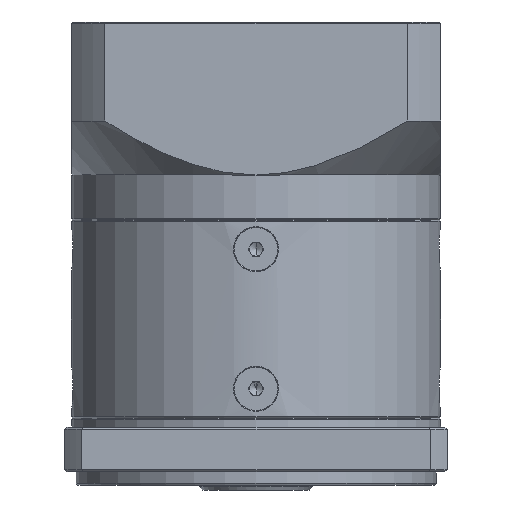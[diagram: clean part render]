
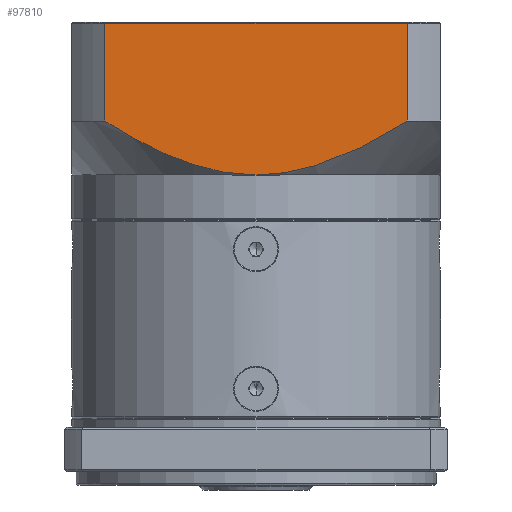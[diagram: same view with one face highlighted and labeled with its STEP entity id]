
A CAD part, front view. The second image highlights one B-rep face of the part: STEP entity #97810.
In plain terms, the highlighted planar face has unit normal (0, -1, 0).
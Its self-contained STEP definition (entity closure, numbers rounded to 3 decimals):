
#327 = CARTESIAN_POINT ( 'NONE',  ( -47.711, -1.731, -32.755 ) ) ;
#3572 = LINE ( 'NONE', #74323, #25052 ) ;
#4248 = EDGE_CURVE ( 'NONE', #39592, #39420, #40851, .T. ) ;
#5175 = LINE ( 'NONE', #55480, #98291 ) ;
#5193 = DIRECTION ( 'NONE',  ( 0., 0., -1. ) ) ;
#6837 = CARTESIAN_POINT ( 'NONE',  ( -38.102, -1.731, -30.852 ) ) ;
#7260 = CARTESIAN_POINT ( 'NONE',  ( -34.51, -1.731, -29.672 ) ) ;
#8018 = VERTEX_POINT ( 'NONE', #34319 ) ;
#8114 = CARTESIAN_POINT ( 'NONE',  ( -44.718, -1.731, -32.413 ) ) ;
#11227 = CARTESIAN_POINT ( 'NONE',  ( -62.642, -1.731, -31.088 ) ) ;
#15042 = VECTOR ( 'NONE', #88600, 1000. ) ;
#17066 = CARTESIAN_POINT ( 'NONE',  ( -35.93, -1.731, -30.178 ) ) ;
#17960 = EDGE_CURVE ( 'NONE', #122032, #8018, #39026, .T. ) ;
#20625 = CARTESIAN_POINT ( 'NONE',  ( -66.958, -1.731, -29.674 ) ) ;
#21351 = EDGE_CURVE ( 'NONE', #8018, #111827, #97185, .T. ) ;
#21616 = EDGE_CURVE ( 'NONE', #39420, #122032, #3572, .T. ) ;
#25052 = VECTOR ( 'NONE', #5193, 1000. ) ;
#29039 = CARTESIAN_POINT ( 'NONE',  ( -17.17, -1.731, -20.755 ) ) ;
#30063 = CARTESIAN_POINT ( 'NONE',  ( -73.888, -1.731, -26.733 ) ) ;
#34319 = CARTESIAN_POINT ( 'NONE',  ( -50.756, -1.731, -32.755 ) ) ;
#38292 = CARTESIAN_POINT ( 'NONE',  ( -50.756, -1.731, -32.755 ) ) ;
#39026 = B_SPLINE_CURVE_WITH_KNOTS ( 'NONE', 3,
 ( #86567, #124768, #55793, #114910, #75932, #7260, #17066, #6837, #85740, #46857, #125200, #8114, #327, #38292 ),
 .UNSPECIFIED., .F., .F.,
 ( 4, 2, 2, 2, 2, 2, 4 ),
 ( 0., 0.009, 0.018, 0.022, 0.025, 0.027, 0.036 ),
 .UNSPECIFIED. ) ;
#39420 = VERTEX_POINT ( 'NONE', #58697 ) ;
#39452 = CARTESIAN_POINT ( 'NONE',  ( -84.341, -1.731, 0.995 ) ) ;
#39592 = VERTEX_POINT ( 'NONE', #39452 ) ;
#39756 = CARTESIAN_POINT ( 'NONE',  ( -81.789, -1.731, -22.372 ) ) ;
#40157 = CARTESIAN_POINT ( 'NONE',  ( -61.187, -1.731, -31.473 ) ) ;
#40851 = LINE ( 'NONE', #59550, #15042 ) ;
#45197 = ORIENTED_EDGE ( 'NONE', *, *, #69400, .F. ) ;
#46857 = CARTESIAN_POINT ( 'NONE',  ( -40.297, -1.731, -31.448 ) ) ;
#50820 = CARTESIAN_POINT ( 'NONE',  ( -56.784, -1.731, -32.413 ) ) ;
#52144 = DIRECTION ( 'NONE',  ( 0., 0., 1. ) ) ;
#55480 = CARTESIAN_POINT ( 'NONE',  ( -84.341, -1.731, -32.755 ) ) ;
#55793 = CARTESIAN_POINT ( 'NONE',  ( -22.31, -1.731, -23.904 ) ) ;
#58697 = CARTESIAN_POINT ( 'NONE',  ( -17.17, -1.731, 0.995 ) ) ;
#59550 = CARTESIAN_POINT ( 'NONE',  ( -91.756, -1.731, 0.995 ) ) ;
#60211 = CARTESIAN_POINT ( 'NONE',  ( -71.174, -1.731, -28.024 ) ) ;
#68775 = AXIS2_PLACEMENT_3D ( 'NONE', #110321, #80415, #52144 ) ;
#69400 = EDGE_CURVE ( 'NONE', #111827, #39592, #5175, .T. ) ;
#72227 = PLANE ( 'NONE',  #68775 ) ;
#74323 = CARTESIAN_POINT ( 'NONE',  ( -17.17, -1.731, 1.245 ) ) ;
#75932 = CARTESIAN_POINT ( 'NONE',  ( -30.316, -1.731, -28.014 ) ) ;
#77817 = ORIENTED_EDGE ( 'NONE', *, *, #21616, .F. ) ;
#78678 = CARTESIAN_POINT ( 'NONE',  ( -84.341, -1.731, -20.755 ) ) ;
#79935 = CARTESIAN_POINT ( 'NONE',  ( -67.665, -1.731, -29.409 ) ) ;
#80415 = DIRECTION ( 'NONE',  ( 0., 1., 0. ) ) ;
#80633 = EDGE_LOOP ( 'NONE', ( #121029, #45197, #103712, #91211, #77817 ) ) ;
#85740 = CARTESIAN_POINT ( 'NONE',  ( -38.833, -1.731, -31.062 ) ) ;
#86567 = CARTESIAN_POINT ( 'NONE',  ( -17.17, -1.731, -20.755 ) ) ;
#88025 = CARTESIAN_POINT ( 'NONE',  ( -50.756, -1.731, -32.755 ) ) ;
#88600 = DIRECTION ( 'NONE',  ( 1., 0., 0. ) ) ;
#90138 = CARTESIAN_POINT ( 'NONE',  ( -65.53, -1.731, -30.179 ) ) ;
#91211 = ORIENTED_EDGE ( 'NONE', *, *, #17960, .F. ) ;
#96098 = DIRECTION ( 'NONE',  ( 0., 0., 1. ) ) ;
#97185 = B_SPLINE_CURVE_WITH_KNOTS ( 'NONE', 3,
 ( #88025, #118894, #50820, #40157, #11227, #119321, #90138, #20625, #79935, #60211, #30063, #108567, #39756, #78678 ),
 .UNSPECIFIED., .F., .F.,
 ( 4, 2, 2, 2, 2, 2, 4 ),
 ( 0., 0.009, 0.013, 0.016, 0.018, 0.027, 0.036 ),
 .UNSPECIFIED. ) ;
#97810 = ADVANCED_FACE ( 'NONE', ( #107540 ), #72227, .F. ) ;
#98291 = VECTOR ( 'NONE', #96098, 1000. ) ;
#103712 = ORIENTED_EDGE ( 'NONE', *, *, #21351, .F. ) ;
#107540 = FACE_OUTER_BOUND ( 'NONE', #80633, .T. ) ;
#108567 = CARTESIAN_POINT ( 'NONE',  ( -79.196, -1.731, -23.907 ) ) ;
#110321 = CARTESIAN_POINT ( 'NONE',  ( -91.756, -1.731, 1.245 ) ) ;
#111827 = VERTEX_POINT ( 'NONE', #118980 ) ;
#114910 = CARTESIAN_POINT ( 'NONE',  ( -27.608, -1.731, -26.725 ) ) ;
#118894 = CARTESIAN_POINT ( 'NONE',  ( -53.8, -1.731, -32.755 ) ) ;
#118980 = CARTESIAN_POINT ( 'NONE',  ( -84.341, -1.731, -20.755 ) ) ;
#119321 = CARTESIAN_POINT ( 'NONE',  ( -64.809, -1.731, -30.418 ) ) ;
#121029 = ORIENTED_EDGE ( 'NONE', *, *, #4248, .F. ) ;
#122032 = VERTEX_POINT ( 'NONE', #29039 ) ;
#124768 = CARTESIAN_POINT ( 'NONE',  ( -19.72, -1.731, -22.371 ) ) ;
#125200 = CARTESIAN_POINT ( 'NONE',  ( -41.032, -1.731, -31.623 ) ) ;
